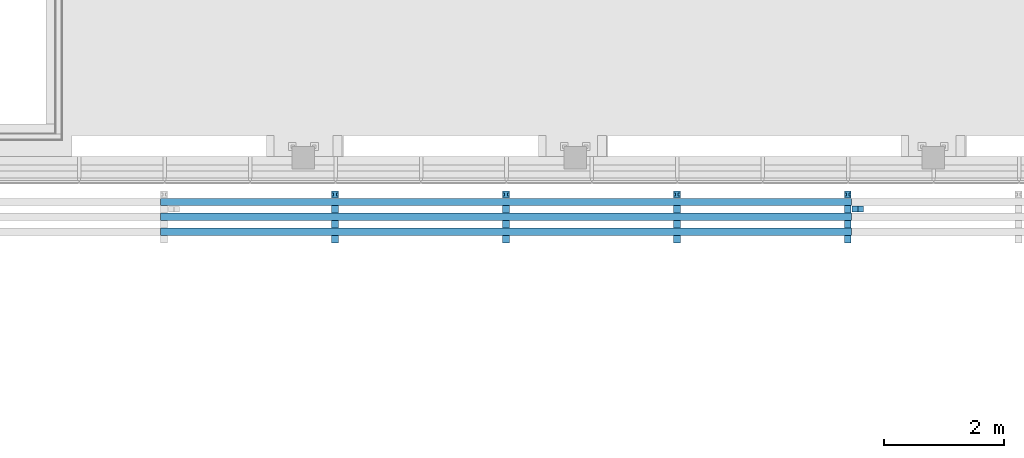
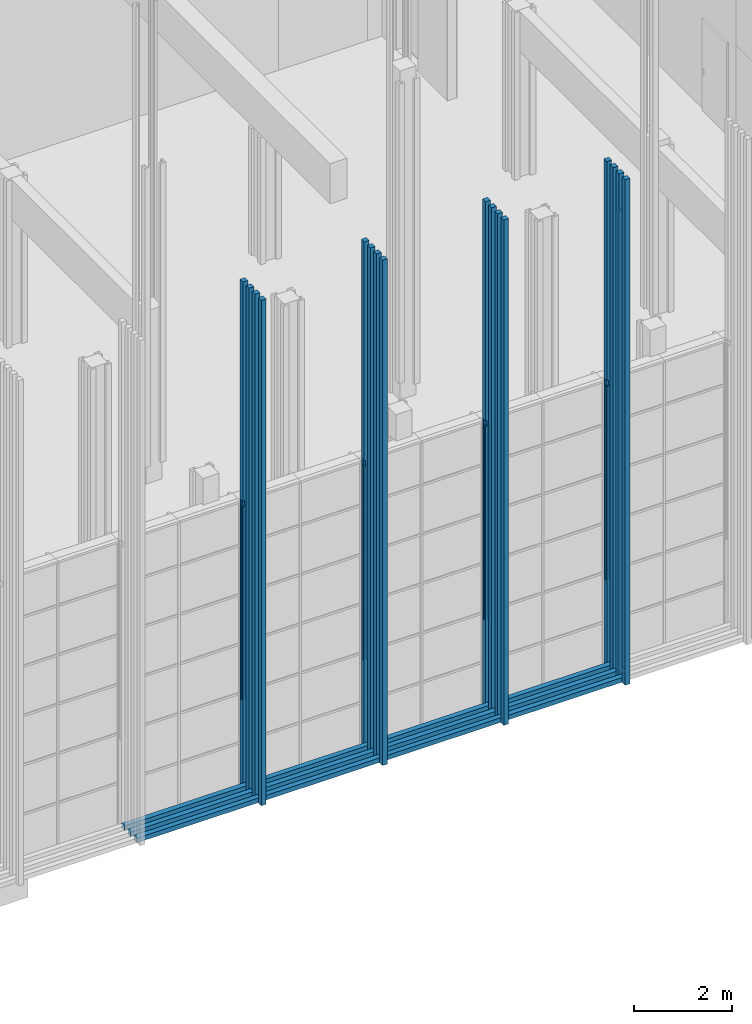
# One storey, part 137 of 260: 14 discrete accessories.
"""IFC2X3 building model written with IfcOpenShell, lengths in millimetres."""

import ifcopenshell
import ifcopenshell.guid

model = None  # the IFC model being written
_history = None  # IfcOwnerHistory: only IFC2X3 demands one
_inside = {}  # id of a spatial element -> (the spatial element, [elements in it])
_under = {}  # id of a project, library or spatial element -> (it, [spatial elements below it])
_declared = {}  # id of a project -> (the project, [libraries it declares])
_typed = {}  # id of a type object -> (the type object, [elements of that type])
_made_of = {}  # id of a material, layer set ... -> (it, [elements and type objects made of it])


def new_model(schema):
    """Start an empty IFC model of exactly this schema.

    Asked for "IFC4X3", IfcOpenShell would pick the latest addendum, in which some entities
    have other attributes; the version numbers below select the first issue.
    IFC2X3 requires an IfcOwnerHistory on every rooted entity: one is made here for all.
    """
    global model, _history
    if schema == "IFC4X3":
        model = ifcopenshell.file(schema_version=(4, 3, 0, 0))
    else:
        model = ifcopenshell.file(schema=schema)
    _inside.clear()
    _under.clear()
    _declared.clear()
    _typed.clear()
    _made_of.clear()
    _history = None
    if model.schema == "IFC2X3":
        org = make("IfcOrganization", Name="unknown")
        user = make(
            "IfcPersonAndOrganization",
            ThePerson=make("IfcPerson", FamilyName="unknown"),
            TheOrganization=org,
        )
        app = make(
            "IfcApplication",
            ApplicationDeveloper=org,
            Version="unknown",
            ApplicationFullName="unknown",
            ApplicationIdentifier="unknown",
        )
        _history = make(
            "IfcOwnerHistory",
            OwningUser=user,
            OwningApplication=app,
            ChangeAction="ADDED",
            CreationDate=0,
        )
    return model


def make(cls, **values):
    """One entity of the class cls with the attributes given. An attribute that is None is left unset."""
    return model.create_entity(
        cls, **{name: value for name, value in values.items() if value is not None}
    )


def entity(cls, *values):
    """Any entity or typed value of the class cls, its attributes in the order of the schema. None: left unset."""
    e = model.create_entity(cls)
    for i, value in enumerate(values):
        if value is not None:
            e[i] = value
    return e


def rooted(cls, **values):
    """An entity with a GlobalId (a new one), such as an element, a storey or a relation."""
    return make(cls, GlobalId=ifcopenshell.guid.new(), OwnerHistory=_history, **values)


def si_unit(unit_type, name, prefix=None):
    """IfcSIUnit, for example si_unit("LENGTHUNIT", "METRE", prefix="MILLI")."""
    return make("IfcSIUnit", UnitType=unit_type, Prefix=prefix, Name=name)


def converted_unit(unit_type, name, factor, base, dimensions=None, offset=None):
    """IfcConversionBasedUnit, such as the inch: factor (a typed value) times the base unit."""
    return make(
        "IfcConversionBasedUnit"
        if offset is None
        else "IfcConversionBasedUnitWithOffset",
        ConversionOffset=offset,
        Dimensions=None
        if dimensions is None
        else entity("IfcDimensionalExponents", *dimensions),
        UnitType=unit_type,
        Name=name,
        ConversionFactor=make(
            "IfcMeasureWithUnit", ValueComponent=factor, UnitComponent=base
        ),
    )


def derived_unit(unit_type, elements):
    """IfcDerivedUnit: a product of units, each with its exponent."""
    return make(
        "IfcDerivedUnit",
        Elements=[
            make("IfcDerivedUnitElement", Unit=unit, Exponent=power)
            for unit, power in elements
        ],
        UnitType=unit_type,
    )


def money_unit(currency):
    """IfcMonetaryUnit."""
    return make("IfcMonetaryUnit", Currency=currency)


def assignment(units):
    """IfcUnitAssignment: the units of a project."""
    return None if units is None else make("IfcUnitAssignment", Units=units)


def point(xyz):
    """IfcCartesianPoint."""
    return None if xyz is None else make("IfcCartesianPoint", Coordinates=xyz)


def direction(xyz):
    """IfcDirection."""
    return None if xyz is None else make("IfcDirection", DirectionRatios=xyz)


def frame(location, z_axis=None, x_axis=None):
    """IfcAxis2Placement3D, a coordinate frame: its origin and axes. An axis left out is left unset."""
    return make(
        "IfcAxis2Placement3D",
        Location=point(location),
        Axis=direction(z_axis),
        RefDirection=direction(x_axis),
    )


def origin_with_axes():
    """The frame at (0, 0, 0) with the z axis (0, 0, 1) and the x axis (1, 0, 0) written out."""
    return frame((0.0, 0.0, 0.0), z_axis=(0.0, 0.0, 1.0), x_axis=(1.0, 0.0, 0.0))


def place(relative_to, where):
    """IfcLocalPlacement: puts the frame where relative to a parent placement (None: the world)."""
    return make(
        "IfcLocalPlacement", PlacementRelTo=relative_to, RelativePlacement=where
    )


def context(
    kind, dimensions, precision=None, world=None, true_north=None, identifier=None
):
    """IfcGeometricRepresentationContext, for example the 3D "Model" context."""
    return make(
        "IfcGeometricRepresentationContext",
        ContextIdentifier=identifier,
        ContextType=kind,
        CoordinateSpaceDimension=dimensions,
        Precision=precision,
        WorldCoordinateSystem=world,
        TrueNorth=true_north,
    )


def subcontext(parent, identifier, kind, view, scale=None):
    """IfcGeometricRepresentationSubContext, for example "Body" below "Model"."""
    return make(
        "IfcGeometricRepresentationSubContext",
        ContextIdentifier=identifier,
        ContextType=kind,
        ParentContext=parent,
        TargetScale=scale,
        TargetView=view,
    )


def project(units=None, contexts=None):
    """IfcProject with its units and contexts."""
    return rooted(
        "IfcProject",
        Name="project",
        RepresentationContexts=contexts,
        UnitsInContext=assignment(units),
    )


def spatial(cls, under=None, at=None, **own):
    """A site, building, storey or space (cls), placed at a placement, below another one or the project."""
    s = rooted(cls, ObjectPlacement=at, **own)
    if under is not None:
        _under.setdefault(under.id(), (under, []))[1].append(s)
    return s


def faces_of(points, faces, orient=None, outer=None):
    """IfcFace entities. A face is a list of loops; a loop is a list of indices into points, from 0.

    orient and outer hold one flag for each loop. By default every Orientation is true, the
    first loop of a face is its IfcFaceOuterBound and the others are IfcFaceBound.
    """
    made = []
    for i, loops in enumerate(faces):
        bounds = []
        for j, loop in enumerate(loops):
            is_outer = j == 0 if outer is None else outer[i][j]
            bounds.append(
                make(
                    "IfcFaceOuterBound" if is_outer else "IfcFaceBound",
                    Bound=make("IfcPolyLoop", Polygon=[points[k] for k in loop]),
                    Orientation=True if orient is None else orient[i][j],
                )
            )
        made.append(make("IfcFace", Bounds=bounds))
    return made


def open_shell(faces, orient=None, outer=None):
    """The faces of one IfcOpenShell. surface_model builds it on its shared points."""
    return ("IfcOpenShell", faces, orient, outer)


def faceted_brep(points, faces, orient=None, outer=None, voids=None):
    """IfcFacetedBrep: a solid bounded by flat faces; with voids (closed shells), ...WithVoids."""
    shared = [point(p) for p in points]
    hull = make("IfcClosedShell", CfsFaces=faces_of(shared, faces, orient, outer))
    if voids is None:
        return make("IfcFacetedBrep", Outer=hull)
    return make(
        "IfcFacetedBrepWithVoids",
        Outer=hull,
        Voids=[
            make(cls, CfsFaces=faces_of(shared, fs, o, b)) for cls, fs, o, b in voids
        ],
    )


def surface_model(cls, points, shells):
    """IfcFaceBasedSurfaceModel or IfcShellBasedSurfaceModel (cls): surfaces that need not close."""
    shared = [point(p) for p in points]
    made = [make(c, CfsFaces=faces_of(shared, fs, o, b)) for c, fs, o, b in shells]
    if cls == "IfcFaceBasedSurfaceModel":
        return make(cls, FbsmFaces=made)
    return make(cls, SbsmBoundary=made)


def shape(context_of_items, identifier, shape_type, items):
    """IfcShapeRepresentation: the items that make up one representation, for example the "Body"."""
    return make(
        "IfcShapeRepresentation",
        ContextOfItems=context_of_items,
        RepresentationIdentifier=identifier,
        RepresentationType=shape_type,
        Items=items,
    )


def material(Name=None, Category=None):
    """IfcMaterial."""
    return make("IfcMaterial", Name=Name, Category=Category)


def material_list(materials):
    """IfcMaterialList."""
    return make("IfcMaterialList", Materials=materials)


def made_of(thing, what):
    """Note that an element or type object is made of a material, layer set ...; save() writes the relation."""
    if what is not None:
        _made_of.setdefault(what.id(), (what, []))[1].append(thing)
    return thing


def type_object(cls, material=None, **own):
    """A type object (cls), such as IfcWallType, which elements share."""
    return made_of(rooted(cls, **own), material)


def element(
    cls,
    number,
    at=None,
    inside=None,
    cuts=None,
    type_object=None,
    material=None,
    context=None,
    identifier="Body",
    shape_type=None,
    held_by="IfcProductDefinitionShape",
    body=None,
    shapes=None,
    **own,
):
    """One element of the class cls, such as IfcWall. Its Tag is "e" and its number.

    at: its placement. inside: the storey or other place that contains it. cuts: it is an
    opening in that element (IfcRelVoidsElement). A single representation is given by context,
    identifier, shape_type and body (its items); several are given by shapes. held_by: the class
    of the entity that holds the representations. save() writes the other relations.
    """
    e = rooted(cls, Tag="e%d" % number, ObjectPlacement=at, **own)
    if body is not None:
        shapes = [shape(context, identifier, shape_type, body)]
    if shapes is not None:
        e.Representation = make(held_by, Representations=shapes)
    if inside is not None:
        _inside.setdefault(inside.id(), (inside, []))[1].append(e)
    if cuts is not None:
        rooted(
            "IfcRelVoidsElement", RelatingBuildingElement=cuts, RelatedOpeningElement=e
        )
    if type_object is not None:
        _typed.setdefault(type_object.id(), (type_object, []))[1].append(e)
    return made_of(e, material)


def aggregate(whole, parts):
    """IfcRelAggregates: a whole, such as a stair, and the parts it consists of."""
    return rooted("IfcRelAggregates", RelatingObject=whole, RelatedObjects=parts)


def save(model, path):
    """Write the relations noted so far, then the file.

    IfcRelAggregates (storeys below a building ...), IfcRelContainedInSpatialStructure (elements
    in a storey), IfcRelDefinesByType, IfcRelAssociatesMaterial and IfcRelDeclares: one each for
    every whole, place, type object, material and project.
    """
    for whole, parts in _under.values():
        aggregate(whole, parts)
    for where, things in _inside.values():
        rooted(
            "IfcRelContainedInSpatialStructure",
            RelatedElements=things,
            RelatingStructure=where,
        )
    for kind, things in _typed.values():
        rooted("IfcRelDefinesByType", RelatedObjects=things, RelatingType=kind)
    for what, things in _made_of.values():
        rooted("IfcRelAssociatesMaterial", RelatedObjects=things, RelatingMaterial=what)
    for by, libraries in _declared.values():
        rooted("IfcRelDeclares", RelatingContext=by, RelatedDefinitions=libraries)
    model.write(path)


model = new_model("IFC2X3")

# Units and contexts
model_context = context("Model", 3, precision=0.01, world=origin_with_axes(), true_north=direction((0.0, 1.0)))
body_context = subcontext(model_context, "Body", "Model", "MODEL_VIEW")
ifc_project = project(units=[si_unit("LENGTHUNIT", "METRE", prefix="MILLI"), si_unit("AREAUNIT", "SQUARE_METRE"), si_unit("VOLUMEUNIT", "CUBIC_METRE"), converted_unit("PLANEANGLEUNIT", "DEGREE", entity("IfcPlaneAngleMeasure", 0.0174532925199), si_unit("PLANEANGLEUNIT", "RADIAN"), dimensions=[0, 0, 0, 0, 0, 0, 0]), money_unit("EUR"), converted_unit("TIMEUNIT", "Year", entity("IfcTimeMeasure", 31556926.0), si_unit("TIMEUNIT", "SECOND"), dimensions=[0, 0, 1, 0, 0, 0, 0]), si_unit("MASSUNIT", "GRAM", prefix="KILO"), si_unit("THERMODYNAMICTEMPERATUREUNIT", "DEGREE_CELSIUS"), si_unit("LUMINOUSINTENSITYUNIT", "LUMEN"), si_unit("ENERGYUNIT", "JOULE", prefix="MEGA"), derived_unit("THERMALCONDUCTANCEUNIT", [(si_unit("POWERUNIT", "WATT"), 1), (si_unit("LENGTHUNIT", "METRE"), -1), (si_unit("THERMODYNAMICTEMPERATUREUNIT", "KELVIN"), -1)]), derived_unit("SPECIFICHEATCAPACITYUNIT", [(si_unit("ENERGYUNIT", "JOULE"), 1), (si_unit("MASSUNIT", "GRAM", prefix="KILO"), -1), (si_unit("THERMODYNAMICTEMPERATUREUNIT", "KELVIN"), -1)]), derived_unit("MASSDENSITYUNIT", [(si_unit("MASSUNIT", "GRAM", prefix="KILO"), 1), (si_unit("VOLUMEUNIT", "CUBIC_METRE"), -1)])], contexts=[model_context])

# Site, building, storey
site_placement = place(None, origin_with_axes())
site = spatial("IfcSite", under=ifc_project, at=site_placement, Name="Kolde pst 67a", CompositionType="ELEMENT")
building_placement = place(site_placement, origin_with_axes())
building = spatial("IfcBuilding", under=site, at=building_placement, Name="Riigigümnaasium", CompositionType="ELEMENT")
storey_placement = place(building_placement, origin_with_axes())
storey = spatial("IfcBuildingStorey", under=building, at=storey_placement, Name="1. korrus", CompositionType="ELEMENT", Elevation=0.0)

# Discrete accessories
ifc_material_1 = material(Name="_VÄLISVIIMISTLUS - sõrmjätkatud puitprussid 120x115mm, liitekohad vähemärgatavad, Platowood sõrmjätkatud kuusk või samaväärne; eeltöödeldud tuletõkkevõõbaga, tuletundlikkus B-s1, d0, Woodsafe Exterior WFX™ või samaväärne; kinnitused vastavalt EK osale")
ifc_material_list_1 = material_list([ifc_material_1, ifc_material_1, ifc_material_1, ifc_material_1])
discrete_accessory_type_1 = type_object("IfcDiscreteAccessoryType", Name="120 4-ne vertikaalne 870 x 115")
discrete_accessory_1_placement = place(storey_placement, frame((32217.5025222, 23687.999745, 280.0), z_axis=(0.0, 0.0, 1.0), x_axis=(-3.13999128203e-06, 0.999999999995, 0.0)))
element("IfcDiscreteAccessory", 1, at=discrete_accessory_1_placement, inside=storey, type_object=discrete_accessory_type_1, material=ifc_material_list_1, Name="Päikesevarjestus", context=body_context, shape_type="Brep", body=[
    faceted_brep([(-47.9999999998, 45.0001098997, 6990.0), (-48.0001098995, 10.0001098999, 6990.0), (-47.8300549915, 10.0031465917, 6990.0), (-47.8320637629, 45.0, 6990.0), (-47.9999999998, 45.0001098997, 2150.0), (-48.0001098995, 10.0001098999, 2150.0), (-98.0001098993, 10.0002668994, 6990.0), (-133.0, 9.99825795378, 6990.0), (-133.0, 9.99825795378, 7140.0), (-47.8300549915, 10.0031465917, 7140.0), (-47.8320637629, 45.0, 7140.0), (-133.0, 45.0, 7140.0), (-133.0, 45.0, 12600.0), (-13.0, 45.0, 12600.0), (-13.0, 45.0, 0.0), (-133.0, 45.0, 0.0), (-133.0, 45.0, 6990.0), (-97.9999999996, 45.0002668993, 6990.0), (-97.9999999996, 45.0002668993, 2150.0), (-98.0001098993, 10.0002668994, 2150.0), (-133.0, -35.001867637, 7140.0), (-133.0, -70.0, 7140.0), (-133.0, -70.0, 12600.0), (-133.0, -70.0, 0.0), (-133.0, -70.0, 6990.0), (-133.0, -35.001867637, 6990.0), (-13.0, -70.0, 12600.0), (-13.0, -70.0, 0.0), (-48.0006124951, -34.9969887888, 7140.0), (-47.9986033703, -70.0, 7140.0), (-48.0003610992, -70.0000156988, 6990.0), (-48.0003610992, -70.0000156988, 2150.0), (-98.000361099, -69.9998586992, 2150.0), (-98.000361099, -69.9998586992, 6990.0), (-98.0002511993, -34.9998586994, 6990.0), (-48.0002511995, -35.000015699, 6990.0), (-48.0002511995, -35.000015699, 2150.0), (-98.0002511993, -34.9998586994, 2150.0)], [[[0, 1, 2, 3]], [[1, 0, 4, 5]], [[1, 6, 7, 8, 9, 2]], [[2, 9, 10, 3]], [[4, 0, 3, 10, 11, 12, 13, 14, 15, 16, 17, 18]], [[4, 18, 19, 5]], [[6, 1, 5, 19]], [[6, 17, 16, 7]], [[20, 21, 22, 12, 11, 8, 7, 16, 15, 23, 24, 25]], [[10, 9, 8, 11]], [[26, 13, 12, 22]], [[14, 13, 26, 27]], [[15, 14, 27, 23]], [[17, 6, 19, 18]], [[20, 28, 29, 21]], [[29, 30, 31, 32, 33, 24, 23, 27, 26, 22, 21]], [[34, 25, 24, 33]], [[28, 20, 25, 34, 35]], [[30, 29, 28, 35]], [[30, 35, 36, 31]], [[31, 36, 37, 32]], [[33, 32, 37, 34]], [[34, 37, 36, 35]]]),
    faceted_brep([(-383.0, -70.0, 0.0), (-263.0, -70.0, 0.0), (-263.0, -70.0, 12600.0), (-383.0, -70.0, 12600.0), (-383.0, 45.0, 0.0), (-263.0, 45.0, 0.0), (-263.0, 45.0, 12600.0), (-383.0, 45.0, 12600.0)], [[[0, 1, 2, 3]], [[0, 4, 5, 1]], [[1, 5, 6, 2]], [[3, 2, 6, 7]], [[4, 0, 3, 7]], [[5, 4, 7, 6]]]),
    faceted_brep([(-633.0, -70.0, 0.0), (-513.0, -70.0, 0.0), (-513.0, -70.0, 12600.0), (-633.0, -70.0, 12600.0), (-633.0, 45.0, 0.0), (-513.0, 45.0, 0.0), (-513.0, 45.0, 12600.0), (-633.0, 45.0, 12600.0)], [[[0, 1, 2, 3]], [[0, 4, 5, 1]], [[1, 5, 6, 2]], [[3, 2, 6, 7]], [[4, 0, 3, 7]], [[5, 4, 7, 6]]]),
    faceted_brep([(-883.0, -70.0, 0.0), (-763.0, -70.0, 0.0), (-763.0, -70.0, 12600.0), (-883.0, -70.0, 12600.0), (-883.0, 45.0, 0.0), (-763.0, 45.0, 0.0), (-763.0, 45.0, 12600.0), (-883.0, 45.0, 12600.0)], [[[0, 1, 2, 3]], [[0, 4, 5, 1]], [[1, 5, 6, 2]], [[3, 2, 6, 7]], [[4, 0, 3, 7]], [[5, 4, 7, 6]]]),
])
discrete_accessory_2_placement = place(storey_placement, frame((35077.5025222, 23687.999745, 280.0), z_axis=(0.0, 0.0, 1.0), x_axis=(-3.13999128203e-06, 0.999999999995, 0.0)))
element("IfcDiscreteAccessory", 2, at=discrete_accessory_2_placement, inside=storey, type_object=discrete_accessory_type_1, material=ifc_material_list_1, Name="Päikesevarjestus", context=body_context, shape_type="Brep", body=[
    faceted_brep([(-47.9999999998, 45.0001098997, 6990.0), (-48.0001098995, 10.0001098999, 6990.0), (-47.8300549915, 10.0031465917, 6990.0), (-47.8320637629, 45.0, 6990.0), (-47.9999999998, 45.0001098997, 2150.0), (-48.0001098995, 10.0001098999, 2150.0), (-98.0001098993, 10.0002668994, 6990.0), (-133.0, 9.99825795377, 6990.0), (-133.0, 9.99825795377, 7140.0), (-47.8300549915, 10.0031465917, 7140.0), (-47.8320637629, 45.0, 7140.0), (-133.0, 45.0, 7140.0), (-133.0, 45.0, 12600.0), (-13.0, 45.0, 12600.0), (-13.0, 45.0, 0.0), (-133.0, 45.0, 0.0), (-133.0, 45.0, 6990.0), (-97.9999999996, 45.0002668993, 6990.0), (-97.9999999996, 45.0002668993, 2150.0), (-98.0001098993, 10.0002668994, 2150.0), (-133.0, -35.005271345, 7140.0), (-133.0, -70.0, 7140.0), (-133.0, -70.0, 12600.0), (-133.0, -70.0, 0.0), (-133.0, -70.0, 6990.0), (-133.0, -35.005271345, 6990.0), (-13.0, -70.0, 12600.0), (-13.0, -70.0, 0.0), (-48.0006122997, -35.0003924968, 7140.0), (-47.9986033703, -70.0, 7140.0), (-48.0007221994, -70.0003924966, 6990.0), (-48.0007221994, -70.0003924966, 2150.0), (-98.0007221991, -70.0002354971, 2150.0), (-98.0007221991, -70.0002354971, 6990.0), (-98.0006122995, -35.0002354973, 6990.0), (-48.0006122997, -35.0003924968, 6990.0), (-48.0006122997, -35.0003924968, 2150.0), (-98.0006122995, -35.0002354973, 2150.0)], [[[0, 1, 2, 3]], [[1, 0, 4, 5]], [[1, 6, 7, 8, 9, 2]], [[2, 9, 10, 3]], [[4, 0, 3, 10, 11, 12, 13, 14, 15, 16, 17, 18]], [[4, 18, 19, 5]], [[6, 1, 5, 19]], [[6, 17, 16, 7]], [[20, 21, 22, 12, 11, 8, 7, 16, 15, 23, 24, 25]], [[10, 9, 8, 11]], [[26, 13, 12, 22]], [[14, 13, 26, 27]], [[15, 14, 27, 23]], [[17, 6, 19, 18]], [[20, 28, 29, 21]], [[29, 30, 31, 32, 33, 24, 23, 27, 26, 22, 21]], [[34, 25, 24, 33]], [[28, 20, 25, 34, 35]], [[30, 29, 28, 35]], [[30, 35, 36, 31]], [[31, 36, 37, 32]], [[33, 32, 37, 34]], [[34, 37, 36, 35]]]),
    faceted_brep([(-383.0, -70.0, 0.0), (-263.0, -70.0, 0.0), (-263.0, -70.0, 12600.0), (-383.0, -70.0, 12600.0), (-383.0, 45.0, 0.0), (-263.0, 45.0, 0.0), (-263.0, 45.0, 12600.0), (-383.0, 45.0, 12600.0)], [[[0, 1, 2, 3]], [[0, 4, 5, 1]], [[1, 5, 6, 2]], [[3, 2, 6, 7]], [[4, 0, 3, 7]], [[5, 4, 7, 6]]]),
    faceted_brep([(-633.0, -70.0, 0.0), (-513.0, -70.0, 0.0), (-513.0, -70.0, 12600.0), (-633.0, -70.0, 12600.0), (-633.0, 45.0, 0.0), (-513.0, 45.0, 0.0), (-513.0, 45.0, 12600.0), (-633.0, 45.0, 12600.0)], [[[0, 1, 2, 3]], [[0, 4, 5, 1]], [[1, 5, 6, 2]], [[3, 2, 6, 7]], [[4, 0, 3, 7]], [[5, 4, 7, 6]]]),
    faceted_brep([(-883.0, -70.0, 0.0), (-763.0, -70.0, 0.0), (-763.0, -70.0, 12600.0), (-883.0, -70.0, 12600.0), (-883.0, 45.0, 0.0), (-763.0, 45.0, 0.0), (-763.0, 45.0, 12600.0), (-883.0, 45.0, 12600.0)], [[[0, 1, 2, 3]], [[0, 4, 5, 1]], [[1, 5, 6, 2]], [[3, 2, 6, 7]], [[4, 0, 3, 7]], [[5, 4, 7, 6]]]),
])
discrete_accessory_3_placement = place(storey_placement, frame((37937.5025222, 23687.999745, 280.0), z_axis=(0.0, 0.0, 1.0), x_axis=(-3.13999128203e-06, 0.999999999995, 0.0)))
element("IfcDiscreteAccessory", 3, at=discrete_accessory_3_placement, inside=storey, type_object=discrete_accessory_type_1, material=ifc_material_list_1, Name="Päikesevarjestus", context=body_context, shape_type="Brep", body=[
    faceted_brep([(-48.0003611, 44.9997331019, 6990.0), (-48.0004709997, 9.99973310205, 6990.0), (-47.8300547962, 9.99974288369, 6990.0), (-47.8320637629, 45.0, 6990.0), (-48.0003611, 44.9997331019, 2150.0), (-48.0004709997, 9.99973310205, 2150.0), (-98.0004709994, 9.99989010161, 6990.0), (-133.0, 9.99485424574, 6990.0), (-133.0, 9.99485424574, 7140.0), (-47.8300547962, 9.99974288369, 7140.0), (-47.8320637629, 45.0, 7140.0), (-133.0, 45.0, 7140.0), (-133.0, 45.0, 12600.0), (-13.0, 45.0, 12600.0), (-13.0, 45.0, 0.0), (-133.0, 45.0, 0.0), (-133.0, 45.0, 6990.0), (-98.0003610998, 44.9998901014, 6990.0), (-98.0003610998, 44.9998901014, 2150.0), (-98.0004709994, 9.99989010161, 2150.0), (-133.0, -35.005271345, 7140.0), (-133.0, -70.0, 7140.0), (-133.0, -70.0, 12600.0), (-133.0, -70.0, 0.0), (-133.0, -70.0, 6990.0), (-133.0, -35.005271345, 6990.0), (-13.0, -70.0, 12600.0), (-13.0, -70.0, 0.0), (-48.0006122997, -35.0003924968, 7140.0), (-47.9986033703, -70.0, 7140.0), (-48.0007221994, -70.0003924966, 6990.0), (-48.0007221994, -70.0003924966, 2150.0), (-98.0007221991, -70.0002354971, 2150.0), (-98.0007221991, -70.0002354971, 6990.0), (-98.0006122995, -35.0002354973, 6990.0), (-48.0006122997, -35.0003924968, 6990.0), (-48.0006122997, -35.0003924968, 2150.0), (-98.0006122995, -35.0002354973, 2150.0)], [[[0, 1, 2, 3]], [[1, 0, 4, 5]], [[1, 6, 7, 8, 9, 2]], [[2, 9, 10, 3]], [[4, 0, 3, 10, 11, 12, 13, 14, 15, 16, 17, 18]], [[4, 18, 19, 5]], [[6, 1, 5, 19]], [[6, 17, 16, 7]], [[20, 21, 22, 12, 11, 8, 7, 16, 15, 23, 24, 25]], [[10, 9, 8, 11]], [[26, 13, 12, 22]], [[14, 13, 26, 27]], [[15, 14, 27, 23]], [[17, 6, 19, 18]], [[20, 28, 29, 21]], [[29, 30, 31, 32, 33, 24, 23, 27, 26, 22, 21]], [[34, 25, 24, 33]], [[28, 20, 25, 34, 35]], [[30, 29, 28, 35]], [[30, 35, 36, 31]], [[31, 36, 37, 32]], [[33, 32, 37, 34]], [[34, 37, 36, 35]]]),
    faceted_brep([(-383.0, -70.0, 0.0), (-263.0, -70.0, 0.0), (-263.0, -70.0, 12600.0), (-383.0, -70.0, 12600.0), (-383.0, 45.0, 0.0), (-263.0, 45.0, 0.0), (-263.0, 45.0, 12600.0), (-383.0, 45.0, 12600.0)], [[[0, 1, 2, 3]], [[0, 4, 5, 1]], [[1, 5, 6, 2]], [[3, 2, 6, 7]], [[4, 0, 3, 7]], [[5, 4, 7, 6]]]),
    faceted_brep([(-633.0, -70.0, 0.0), (-513.0, -70.0, 0.0), (-513.0, -70.0, 12600.0), (-633.0, -70.0, 12600.0), (-633.0, 45.0, 0.0), (-513.0, 45.0, 0.0), (-513.0, 45.0, 12600.0), (-633.0, 45.0, 12600.0)], [[[0, 1, 2, 3]], [[0, 4, 5, 1]], [[1, 5, 6, 2]], [[3, 2, 6, 7]], [[4, 0, 3, 7]], [[5, 4, 7, 6]]]),
    faceted_brep([(-883.0, -70.0, 0.0), (-763.0, -70.0, 0.0), (-763.0, -70.0, 12600.0), (-883.0, -70.0, 12600.0), (-883.0, 45.0, 0.0), (-763.0, 45.0, 0.0), (-763.0, 45.0, 12600.0), (-883.0, 45.0, 12600.0)], [[[0, 1, 2, 3]], [[0, 4, 5, 1]], [[1, 5, 6, 2]], [[3, 2, 6, 7]], [[4, 0, 3, 7]], [[5, 4, 7, 6]]]),
])
discrete_accessory_4_placement = place(storey_placement, frame((40797.5025222, 23687.999745, 280.0), z_axis=(0.0, 0.0, 1.0), x_axis=(-3.13999128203e-06, 0.999999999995, 0.0)))
element("IfcDiscreteAccessory", 4, at=discrete_accessory_4_placement, inside=storey, type_object=discrete_accessory_type_1, material=ifc_material_list_1, Name="Päikesevarjestus", context=body_context, shape_type="Brep", body=[
    faceted_brep([(-48.0002511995, -35.000015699, 6990.0), (-48.0003610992, -70.0000156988, 6990.0), (-47.9986033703, -70.0, 7140.0), (-48.0006124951, -34.9969887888, 7140.0), (-48.0003610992, -70.0000156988, 2150.0), (-48.0002511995, -35.000015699, 2150.0), (-98.000361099, -69.9998586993, 2150.0), (-98.000361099, -69.9998586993, 6990.0), (-133.0, -70.0, 6990.0), (-133.0, -70.0, 0.0), (-13.0, -70.0, 0.0), (-13.0, -70.0, 12600.0), (-133.0, -70.0, 12600.0), (-133.0, -70.0, 7140.0), (-133.0, -35.001867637, 7140.0), (-98.0002511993, -34.9998586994, 6990.0), (-133.0, -35.001867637, 6990.0), (-98.0002511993, -34.9998586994, 2150.0), (-133.0, 45.0, 12600.0), (-133.0, 45.0, 7140.0), (-133.0, 9.99788117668, 7140.0), (-133.0, 9.99788117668, 6990.0), (-133.0, 45.0, 6990.0), (-133.0, 45.0, 0.0), (-13.0, 45.0, 0.0), (-13.0, 45.0, 12600.0), (-98.0003610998, 44.9998901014, 6990.0), (-98.0003610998, 44.9998901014, 2150.0), (-48.0003611, 44.9997331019, 2150.0), (-48.0003611, 44.9997331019, 6990.0), (-47.8320637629, 45.0, 6990.0), (-47.8320637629, 45.0, 7140.0), (-47.8300549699, 10.0027698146, 7140.0), (-47.8300549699, 10.0027698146, 6990.0), (-48.0004709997, 9.99973310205, 6990.0), (-98.0004709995, 9.99989010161, 6990.0), (-98.0004709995, 9.99989010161, 2150.0), (-48.0004709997, 9.99973310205, 2150.0)], [[[0, 1, 2, 3]], [[4, 1, 0, 5]], [[6, 7, 8, 9, 10, 11, 12, 13, 2, 1, 4]], [[14, 3, 2, 13]], [[15, 0, 3, 14, 16]], [[0, 15, 17, 5]], [[6, 4, 5, 17]], [[15, 7, 6, 17]], [[7, 15, 16, 8]], [[14, 13, 12, 18, 19, 20, 21, 22, 23, 9, 8, 16]], [[23, 24, 10, 9]], [[24, 25, 11, 10]], [[11, 25, 18, 12]], [[22, 26, 27, 28, 29, 30, 31, 19, 18, 25, 24, 23]], [[31, 32, 20, 19]], [[20, 32, 33, 34, 35, 21]], [[26, 22, 21, 35]], [[35, 36, 27, 26]], [[27, 36, 37, 28]], [[29, 28, 37, 34]], [[34, 33, 30, 29]], [[33, 32, 31, 30]], [[34, 37, 36, 35]]]),
    faceted_brep([(-383.0, -70.0, 0.0), (-263.0, -70.0, 0.0), (-263.0, -70.0, 12600.0), (-383.0, -70.0, 12600.0), (-383.0, 45.0, 0.0), (-263.0, 45.0, 0.0), (-263.0, 45.0, 12600.0), (-383.0, 45.0, 12600.0)], [[[0, 1, 2, 3]], [[0, 4, 5, 1]], [[1, 5, 6, 2]], [[3, 2, 6, 7]], [[4, 0, 3, 7]], [[5, 4, 7, 6]]]),
    faceted_brep([(-633.0, -70.0, 0.0), (-513.0, -70.0, 0.0), (-513.0, -70.0, 12600.0), (-633.0, -70.0, 12600.0), (-633.0, 45.0, 0.0), (-513.0, 45.0, 0.0), (-513.0, 45.0, 12600.0), (-633.0, 45.0, 12600.0)], [[[0, 1, 2, 3]], [[0, 4, 5, 1]], [[1, 5, 6, 2]], [[3, 2, 6, 7]], [[4, 0, 3, 7]], [[5, 4, 7, 6]]]),
    faceted_brep([(-883.0, -70.0, 0.0), (-763.0, -70.0, 0.0), (-763.0, -70.0, 12600.0), (-883.0, -70.0, 12600.0), (-883.0, 45.0, 0.0), (-763.0, 45.0, 0.0), (-763.0, 45.0, 12600.0), (-883.0, 45.0, 12600.0)], [[[0, 1, 2, 3]], [[0, 4, 5, 1]], [[1, 5, 6, 2]], [[3, 2, 6, 7]], [[4, 0, 3, 7]], [[5, 4, 7, 6]]]),
])
ifc_material_list_2 = material_list([ifc_material_1, ifc_material_1, ifc_material_1])
discrete_accessory_type_2 = type_object("IfcDiscreteAccessoryType", Name="120 1+paiksekaitse 3 tk  620 x 115")
discrete_accessory_5_placement = place(storey_placement, frame((29310.002563, 23674.9995959, 352.5), z_axis=(0.0, 0.0, 1.0), x_axis=(0.0, -1.0, 0.0)))
element("IfcDiscreteAccessory", 5, at=discrete_accessory_5_placement, inside=storey, type_object=discrete_accessory_type_2, material=ifc_material_list_2, Name="Päikesevarjestus", context=body_context, shape_type="Brep", body=[
    faceted_brep([(745.0, 11560.0, 45.0), (625.0, 11560.0, 45.0), (625.0, 0.0, 45.0), (745.0, 0.0, 45.0), (745.0, 11560.0, -70.0), (625.0, 11560.0, -70.0), (625.0, 0.0, -70.0), (745.0, 0.0, -70.0)], [[[0, 1, 2, 3]], [[4, 5, 1, 0]], [[1, 5, 6, 2]], [[2, 6, 7, 3]], [[4, 0, 3, 7]], [[5, 4, 7, 6]]]),
    faceted_brep([(495.0, 11560.0, 45.0), (375.0, 11560.0, 45.0), (375.0, 0.0, 45.0), (495.0, 0.0, 45.0), (495.0, 11560.0, -70.0), (375.0, 11560.0, -70.0), (375.0, 0.0, -70.0), (495.0, 0.0, -70.0)], [[[0, 1, 2, 3]], [[4, 5, 1, 0]], [[1, 5, 6, 2]], [[2, 6, 7, 3]], [[4, 0, 3, 7]], [[5, 4, 7, 6]]]),
    faceted_brep([(245.0, 11560.0, 45.0), (125.0, 11560.0, 45.0), (125.0, 0.0, 45.0), (245.0, 0.0, 45.0), (245.0, 11560.0, -70.0), (125.0, 11560.0, -70.0), (125.0, 0.0, -70.0), (245.0, 0.0, -70.0)], [[[0, 1, 2, 3]], [[4, 5, 1, 0]], [[1, 5, 6, 2]], [[2, 6, 7, 3]], [[4, 0, 3, 7]], [[5, 4, 7, 6]]]),
])
discrete_accessory_type_3 = type_object("IfcDiscreteAccessoryType", Name="Downspout Complex 25")
discrete_accessory_6_placement = place(storey_placement, frame((40931.6263408, 23372.9022077, 169.995312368), z_axis=(0.0, 0.0, 1.0), x_axis=(0.0, 1.0, 0.0)))
element("IfcDiscreteAccessory", 6, at=discrete_accessory_6_placement, inside=storey, type_object=discrete_accessory_type_3, Name="Vihmavee toru LORO-X Quadratic 100x100 mm, kuumtsingitud teras, või analoogne", context=body_context, shape_type="SurfaceModel", body=[
    surface_model("IfcShellBasedSurfaceModel", [(-50.0, 50.0, 311.421356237), (-50.0, 50.0, 120.710678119), (-50.0, -70.7106781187, 0.0), (-50.0, -141.421356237, 70.7106781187), (-50.0, -50.0, 162.132034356), (-50.0, -50.0, 311.421356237), (50.0, 50.0, 311.421356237), (50.0, 50.0, 120.710678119), (50.0, -70.7106781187, 0.0), (50.0, -141.421356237, 70.7106781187), (50.0, -50.0, 162.132034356), (50.0, -50.0, 311.421356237)], [open_shell([[[0, 1, 2, 3, 4, 5]], [[6, 7, 1, 0]], [[7, 8, 2, 1]], [[4, 3, 9, 10]], [[5, 4, 10, 11]], [[11, 10, 9, 8, 7, 6]]])]),
    surface_model("IfcShellBasedSurfaceModel", [(50.0, -50.0, 11580.0948106), (50.0, -50.0, 311.421356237), (50.0, 50.0, 311.421356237), (50.0, 50.0, 11580.0948106), (-50.0, -50.0, 11580.0948106), (-50.0, -50.0, 311.421356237), (-50.0, 50.0, 311.421356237), (-50.0, 50.0, 11580.0948106)], [open_shell([[[0, 1, 2, 3]], [[4, 5, 1, 0]], [[3, 2, 6, 7]], [[7, 6, 5, 4]]])]),
])
ifc_material_2 = material(Name="_METALL - teras")
discrete_accessory_type_4 = type_object("IfcDiscreteAccessoryType", Name="_METALL - teras 50 x 35")
discrete_accessory_7_placement = place(storey_placement, frame((40850.0026886, 23614.9996037, 2430.0), z_axis=(0.0, 0.0, 1.0), x_axis=(0.0, 1.0, 0.0)))
element("IfcDiscreteAccessory", 7, at=discrete_accessory_7_placement, inside=storey, type_object=discrete_accessory_type_4, material=ifc_material_2, Name="Varjestuskardina külgsiin RENSON või analoog", context=body_context, shape_type="Brep", body=[
    faceted_brep([(-25.0, -17.5, 4840.0), (-25.0, -17.5, 0.0), (25.0, -17.5, 0.0), (25.0, -17.5, 4840.0), (-25.0, 17.5, 4840.0), (-25.0, 17.5, 0.0), (25.0, 17.5, 0.0), (25.0, 17.5, 4840.0)], [[[0, 1, 2, 3]], [[4, 5, 1, 0]], [[2, 1, 5, 6]], [[3, 2, 6, 7]], [[4, 0, 3, 7]], [[7, 6, 5, 4]]]),
])
discrete_accessory_8_placement = place(storey_placement, frame((40770.0029398, 23614.9992426, 2430.0), z_axis=(0.0, 0.0, 1.0), x_axis=(0.0, -1.0, 0.0)))
element("IfcDiscreteAccessory", 8, at=discrete_accessory_8_placement, inside=storey, type_object=discrete_accessory_type_4, material=ifc_material_2, Name="Varjestuskardina külgsiin RENSON või analoog", context=body_context, shape_type="Brep", body=[
    faceted_brep([(25.0, 17.5, 4840.0), (25.0, 17.5, 0.0), (-25.0, 17.5, 0.0), (-25.0, 17.5, 4840.0), (25.0, -17.5, 4840.0), (25.0, -17.5, 0.0), (-25.0, -17.5, 0.0), (-25.0, -17.5, 4840.0)], [[[0, 1, 2, 3]], [[4, 5, 1, 0]], [[2, 1, 5, 6]], [[3, 2, 6, 7]], [[4, 0, 3, 7]], [[7, 6, 5, 4]]]),
])
discrete_accessory_9_placement = place(storey_placement, frame((37990.0030654, 23614.9992426, 2430.0), z_axis=(0.0, 0.0, 1.0), x_axis=(0.0, 1.0, 0.0)))
element("IfcDiscreteAccessory", 9, at=discrete_accessory_9_placement, inside=storey, type_object=discrete_accessory_type_4, material=ifc_material_2, Name="Varjestuskardina külgsiin RENSON või analoog", context=body_context, shape_type="Brep", body=[
    faceted_brep([(-25.0, -17.5, 4840.0), (-25.0, -17.5, 0.0), (25.0, -17.5, 0.0), (25.0, -17.5, 4840.0), (-25.0, 17.5, 4840.0), (-25.0, 17.5, 0.0), (25.0, 17.5, 0.0), (25.0, 17.5, 4840.0)], [[[0, 1, 2, 3]], [[4, 5, 1, 0]], [[2, 1, 5, 6]], [[3, 2, 6, 7]], [[4, 0, 3, 7]], [[7, 6, 5, 4]]]),
])
discrete_accessory_10_placement = place(storey_placement, frame((37910.0029398, 23614.9992426, 2430.0), z_axis=(0.0, 0.0, 1.0), x_axis=(0.0, -1.0, 0.0)))
element("IfcDiscreteAccessory", 10, at=discrete_accessory_10_placement, inside=storey, type_object=discrete_accessory_type_4, material=ifc_material_2, Name="Varjestuskardina külgsiin RENSON või analoog", context=body_context, shape_type="Brep", body=[
    faceted_brep([(25.0, 17.5, 4840.0), (25.0, 17.5, 0.0), (-25.0, 17.5, 0.0), (-25.0, 17.5, 4840.0), (25.0, -17.5, 4840.0), (25.0, -17.5, 0.0), (-25.0, -17.5, 0.0), (-25.0, -17.5, 4840.0)], [[[0, 1, 2, 3]], [[4, 5, 1, 0]], [[2, 1, 5, 6]], [[3, 2, 6, 7]], [[4, 0, 3, 7]], [[7, 6, 5, 4]]]),
])
discrete_accessory_11_placement = place(storey_placement, frame((35130.0030654, 23614.9992426, 2430.0), z_axis=(0.0, 0.0, 1.0), x_axis=(0.0, 1.0, 0.0)))
element("IfcDiscreteAccessory", 11, at=discrete_accessory_11_placement, inside=storey, type_object=discrete_accessory_type_4, material=ifc_material_2, Name="Varjestuskardina külgsiin RENSON või analoog", context=body_context, shape_type="Brep", body=[
    faceted_brep([(-25.0, -17.5, 4840.0), (-25.0, -17.5, 0.0), (25.0, -17.5, 0.0), (25.0, -17.5, 4840.0), (-25.0, 17.5, 4840.0), (-25.0, 17.5, 0.0), (25.0, 17.5, 0.0), (25.0, 17.5, 4840.0)], [[[0, 1, 2, 3]], [[4, 5, 1, 0]], [[2, 1, 5, 6]], [[3, 2, 6, 7]], [[4, 0, 3, 7]], [[7, 6, 5, 4]]]),
])
discrete_accessory_12_placement = place(storey_placement, frame((35050.002563, 23614.9996037, 2430.0), z_axis=(0.0, 0.0, 1.0), x_axis=(0.0, -1.0, 0.0)))
element("IfcDiscreteAccessory", 12, at=discrete_accessory_12_placement, inside=storey, type_object=discrete_accessory_type_4, material=ifc_material_2, Name="Varjestuskardina külgsiin RENSON või analoog", context=body_context, shape_type="Brep", body=[
    faceted_brep([(25.0, 17.5, 4840.0), (25.0, 17.5, 0.0), (-25.0, 17.5, 0.0), (-25.0, 17.5, 4840.0), (25.0, -17.5, 4840.0), (25.0, -17.5, 0.0), (-25.0, -17.5, 0.0), (-25.0, -17.5, 4840.0)], [[[0, 1, 2, 3]], [[4, 5, 1, 0]], [[2, 1, 5, 6]], [[3, 2, 6, 7]], [[4, 0, 3, 7]], [[7, 6, 5, 4]]]),
])
discrete_accessory_13_placement = place(storey_placement, frame((32270.0026886, 23614.9996037, 2430.0), z_axis=(0.0, 0.0, 1.0), x_axis=(0.0, 1.0, 0.0)))
element("IfcDiscreteAccessory", 13, at=discrete_accessory_13_placement, inside=storey, type_object=discrete_accessory_type_4, material=ifc_material_2, Name="Varjestuskardina külgsiin RENSON või analoog", context=body_context, shape_type="Brep", body=[
    faceted_brep([(-25.0, -17.5, 4840.0), (-25.0, -17.5, 0.0), (25.0, -17.5, 0.0), (25.0, -17.5, 4840.0), (-25.0, 17.5, 4840.0), (-25.0, 17.5, 0.0), (25.0, 17.5, 0.0), (25.0, 17.5, 4840.0)], [[[0, 1, 2, 3]], [[4, 5, 1, 0]], [[2, 1, 5, 6]], [[3, 2, 6, 7]], [[4, 0, 3, 7]], [[7, 6, 5, 4]]]),
])
discrete_accessory_14_placement = place(storey_placement, frame((32190.002563, 23614.9996037, 2430.0), z_axis=(0.0, 0.0, 1.0), x_axis=(0.0, -1.0, 0.0)))
element("IfcDiscreteAccessory", 14, at=discrete_accessory_14_placement, inside=storey, type_object=discrete_accessory_type_4, material=ifc_material_2, Name="Varjestuskardina külgsiin RENSON või analoog", context=body_context, shape_type="Brep", body=[
    faceted_brep([(25.0, 17.5, 4840.0), (25.0, 17.5, 0.0), (-25.0, 17.5, 0.0), (-25.0, 17.5, 4840.0), (25.0, -17.5, 4840.0), (25.0, -17.5, 0.0), (-25.0, -17.5, 0.0), (-25.0, -17.5, 4840.0)], [[[0, 1, 2, 3]], [[4, 5, 1, 0]], [[2, 1, 5, 6]], [[3, 2, 6, 7]], [[4, 0, 3, 7]], [[7, 6, 5, 4]]]),
])

save(model, "model.ifc")
